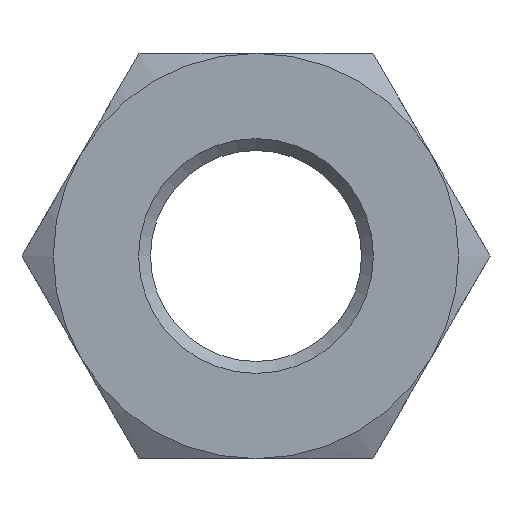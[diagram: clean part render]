
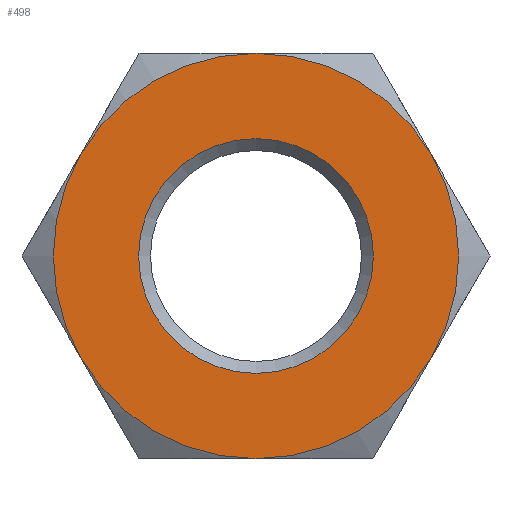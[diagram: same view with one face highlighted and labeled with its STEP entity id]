
A CAD part, front view. The second image highlights one B-rep face of the part: STEP entity #498.
In plain terms, the highlighted planar face has unit normal (0, -1, 0).
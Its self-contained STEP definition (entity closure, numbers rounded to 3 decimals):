
#39=FACE_BOUND('',#138,.T.);
#45=PLANE('',#562);
#105=FACE_OUTER_BOUND('',#137,.T.);
#137=EDGE_LOOP('',(#360,#361,#362,#363,#364,#365));
#138=EDGE_LOOP('',(#366));
#183=CIRCLE('',#561,4.924);
#184=CIRCLE('',#563,8.5);
#185=CIRCLE('',#564,8.5);
#186=CIRCLE('',#565,8.5);
#187=CIRCLE('',#566,8.5);
#188=CIRCLE('',#567,8.5);
#189=CIRCLE('',#568,8.5);
#222=VERTEX_POINT('',#804);
#223=VERTEX_POINT('',#808);
#224=VERTEX_POINT('',#809);
#225=VERTEX_POINT('',#811);
#226=VERTEX_POINT('',#813);
#227=VERTEX_POINT('',#815);
#228=VERTEX_POINT('',#817);
#276=EDGE_CURVE('',#222,#222,#183,.T.);
#277=EDGE_CURVE('',#223,#224,#184,.T.);
#278=EDGE_CURVE('',#224,#225,#185,.T.);
#279=EDGE_CURVE('',#225,#226,#186,.T.);
#280=EDGE_CURVE('',#226,#227,#187,.T.);
#281=EDGE_CURVE('',#227,#228,#188,.T.);
#282=EDGE_CURVE('',#228,#223,#189,.T.);
#360=ORIENTED_EDGE('',*,*,#277,.T.);
#361=ORIENTED_EDGE('',*,*,#278,.T.);
#362=ORIENTED_EDGE('',*,*,#279,.T.);
#363=ORIENTED_EDGE('',*,*,#280,.T.);
#364=ORIENTED_EDGE('',*,*,#281,.T.);
#365=ORIENTED_EDGE('',*,*,#282,.T.);
#366=ORIENTED_EDGE('',*,*,#276,.F.);
#498=ADVANCED_FACE('',(#105,#39),#45,.T.);
#561=AXIS2_PLACEMENT_3D('',#806,#651,#652);
#562=AXIS2_PLACEMENT_3D('',#807,#653,#654);
#563=AXIS2_PLACEMENT_3D('',#810,#655,#656);
#564=AXIS2_PLACEMENT_3D('',#812,#657,#658);
#565=AXIS2_PLACEMENT_3D('',#814,#659,#660);
#566=AXIS2_PLACEMENT_3D('',#816,#661,#662);
#567=AXIS2_PLACEMENT_3D('',#818,#663,#664);
#568=AXIS2_PLACEMENT_3D('',#819,#665,#666);
#651=DIRECTION('center_axis',(0.,-1.,0.));
#652=DIRECTION('ref_axis',(-1.,0.,0.));
#653=DIRECTION('center_axis',(0.,-1.,0.));
#654=DIRECTION('ref_axis',(0.,0.,-1.));
#655=DIRECTION('center_axis',(0.,-1.,0.));
#656=DIRECTION('ref_axis',(1.,0.,0.));
#657=DIRECTION('center_axis',(0.,-1.,0.));
#658=DIRECTION('ref_axis',(1.,0.,0.));
#659=DIRECTION('center_axis',(0.,-1.,0.));
#660=DIRECTION('ref_axis',(1.,0.,0.));
#661=DIRECTION('center_axis',(0.,-1.,0.));
#662=DIRECTION('ref_axis',(1.,0.,0.));
#663=DIRECTION('center_axis',(0.,-1.,0.));
#664=DIRECTION('ref_axis',(1.,0.,0.));
#665=DIRECTION('center_axis',(0.,-1.,0.));
#666=DIRECTION('ref_axis',(1.,0.,0.));
#804=CARTESIAN_POINT('',(4.924,0.,0.));
#806=CARTESIAN_POINT('Origin',(0.,0.,0.));
#807=CARTESIAN_POINT('Origin',(4.424,0.,0.));
#808=CARTESIAN_POINT('',(0.,0.,8.5));
#809=CARTESIAN_POINT('',(-7.361,0.,4.25));
#810=CARTESIAN_POINT('Origin',(0.,0.,0.));
#811=CARTESIAN_POINT('',(-7.361,0.,-4.25));
#812=CARTESIAN_POINT('Origin',(0.,0.,0.));
#813=CARTESIAN_POINT('',(0.,0.,-8.5));
#814=CARTESIAN_POINT('Origin',(0.,0.,0.));
#815=CARTESIAN_POINT('',(7.361,0.,-4.25));
#816=CARTESIAN_POINT('Origin',(0.,0.,0.));
#817=CARTESIAN_POINT('',(7.361,0.,4.25));
#818=CARTESIAN_POINT('Origin',(0.,0.,0.));
#819=CARTESIAN_POINT('Origin',(0.,0.,0.));
